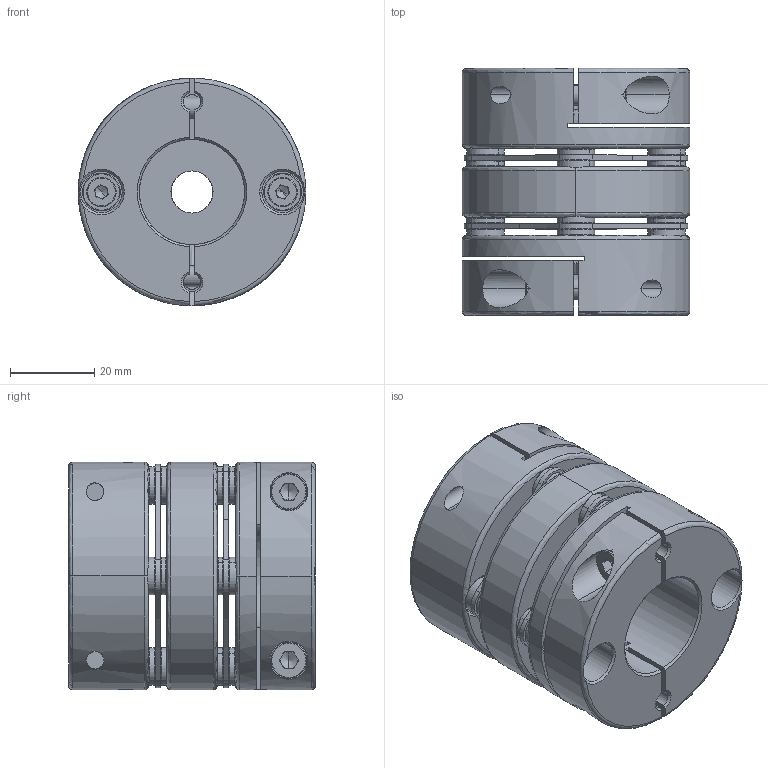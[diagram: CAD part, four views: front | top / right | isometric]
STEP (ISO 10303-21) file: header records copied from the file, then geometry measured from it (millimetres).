
FILE_DESCRIPTION (( 'STEP AP203' ), '1' );
FILE_NAME ('SDWC-54C-10X25_203.STEP', '2013-01-23T03:14:42', ( '' ), ( '' ), 'SwSTEP 2.0', 'SolidWorks 2012', '' );
FILE_SCHEMA (( 'CONFIG_CONTROL_DESIGN' ));
Length unit declared in the file: millimetre
Products named in the file (1): SDWC-54C-10X25_203
Bounding box: 54 x 58.6 x 54 mm (x, y, z)
Volume: 89491.7 mm3; surface area: 40202.8 mm2
Topology: 1 solids, 19 shells, 896 faces, 2102 edges, 1262 vertices
Faces by surface type: cylinder 300, plane 268, torus 182, cone 142, bspline 4
Entity records: 27023 total; most frequent: CARTESIAN_POINT 5767, DIRECTION 4894, ORIENTED_EDGE 4156, EDGE_CURVE 2078, AXIS2_PLACEMENT_3D 2047, VERTEX_POINT 1262, CIRCLE 1154, EDGE_LOOP 1016
